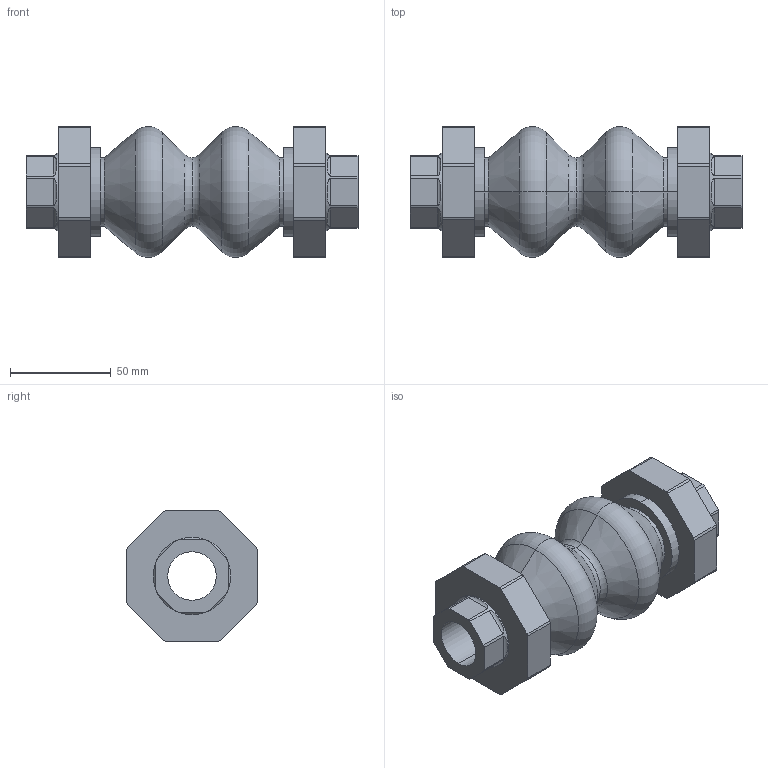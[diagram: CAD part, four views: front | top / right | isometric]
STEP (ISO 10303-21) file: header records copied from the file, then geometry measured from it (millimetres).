
FILE_DESCRIPTION (( 'STEP AP203' ), '1' );
FILE_NAME ('T8_DN020.STEP', '2012-10-31T13:29:07', ( 'luca.saino' ), ( 'Hewlett-Packard Company' ), 'SwSTEP 2.0', 'SolidWorks 2012', '' );
FILE_SCHEMA (( 'CONFIG_CONTROL_DESIGN' ));
Length unit declared in the file: millimetre
Products named in the file (1): T8_DN020
Bounding box: 165 x 65 x 65 mm (x, y, z)
Volume: 207085 mm3; surface area: 60424.7 mm2
Topology: 1 solids, 1 shells, 124 faces, 308 edges, 192 vertices
Faces by surface type: cylinder 48, plane 40, torus 20, cone 16
Entity records: 4261 total; most frequent: CARTESIAN_POINT 1165, DIRECTION 666, ORIENTED_EDGE 616, EDGE_CURVE 308, AXIS2_PLACEMENT_3D 253, VERTEX_POINT 192, LINE 160, VECTOR 160
